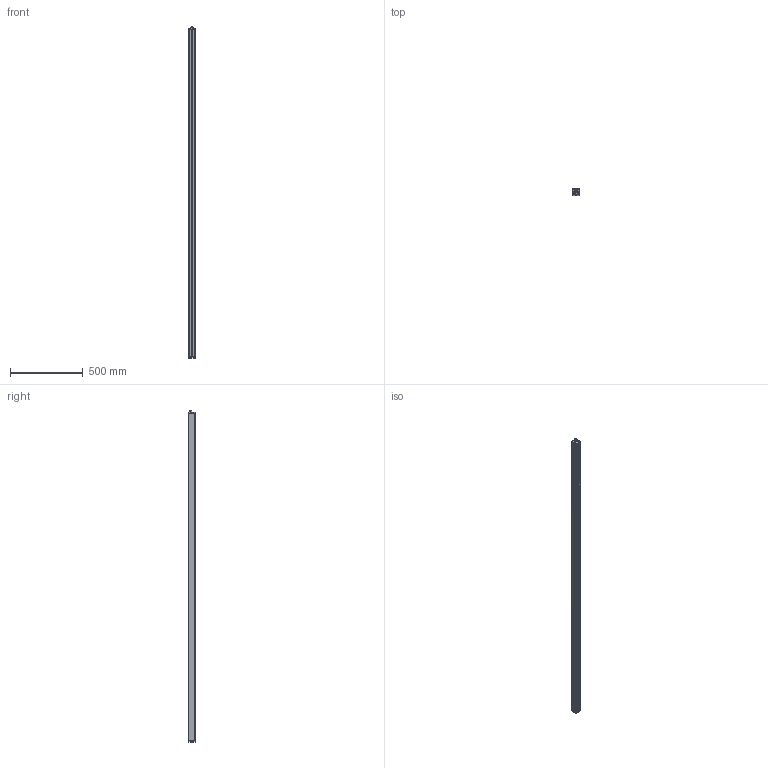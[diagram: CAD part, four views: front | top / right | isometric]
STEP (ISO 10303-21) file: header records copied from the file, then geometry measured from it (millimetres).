
FILE_DESCRIPTION (( 'STEP AP214' ), '1' );
FILE_NAME ('NBAR90.STEP', '2012-01-14T09:46:56', ( 'JRLEDS' ), ( '' ), 'SwSTEP 2.0', 'SolidWorks 2010', '' );
FILE_SCHEMA (( 'AUTOMOTIVE_DESIGN' ));
Length unit declared in the file: millimetre
Products named in the file (8): Embout ALU; PROT-NBAR84; screw_din_912-m5x0_8-10-8_8_Default; Embout percé ALU; SW3DPS-FISCHER_DBP_103_Z053-130-DEFAULT; CIR6LED; NBAR90; PROF-NBAR84
Assembly tree (24 placements, depth 2):
  NBAR90
    CIR6LED  x15
    PROT-NBAR84
    SW3DPS-FISCHER_DBP_103_Z053-130-DEFAULT
    Embout percé ALU
    screw_din_912-m5x0_8-10-8_8_Default  x4
    Embout ALU
    PROF-NBAR84
Bounding box: 45.1 x 45 x 2280 mm (x, y, z)
Volume: 1471296.7 mm3; surface area: 1414651.1 mm2
Topology: 114 solids, 114 shells, 933 faces, 2000 edges, 1294 vertices
Faces by surface type: plane 624, cylinder 271, cone 16, torus 14, sphere 8
Entity records: 9180 total; most frequent: DIRECTION 1324, CARTESIAN_POINT 1288, ORIENTED_EDGE 1180, EDGE_CURVE 590, AXIS2_PLACEMENT_3D 467, LINE 390, VECTOR 390, VERTEX_POINT 379
